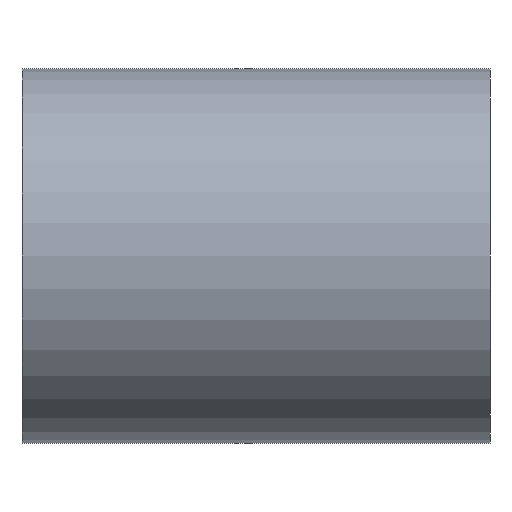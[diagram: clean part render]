
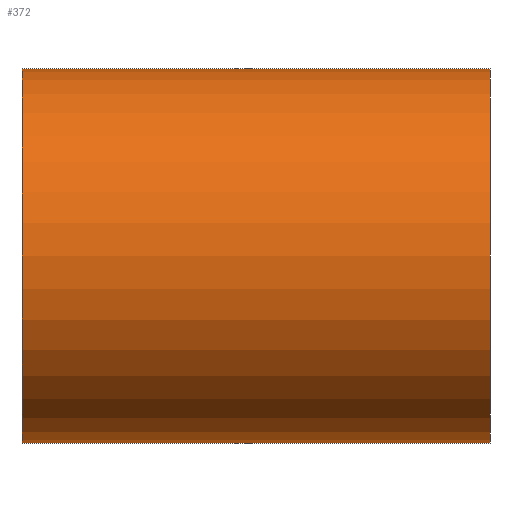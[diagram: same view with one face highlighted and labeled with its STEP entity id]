
A CAD part, front view. The second image highlights one B-rep face of the part: STEP entity #372.
In plain terms, the highlighted cylindrical face has radius 10 mm (diameter 20 mm), a partial arc.
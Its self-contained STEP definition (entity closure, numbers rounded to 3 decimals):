
#3 = DIRECTION ( 'NONE',  ( 0., 0., 1. ) ) ;
#37 = CARTESIAN_POINT ( 'NONE',  ( -12.5, 0., -10. ) ) ;
#51 = VERTEX_POINT ( 'NONE', #556 ) ;
#83 = CARTESIAN_POINT ( 'NONE',  ( 0., 0., 10. ) ) ;
#86 = CARTESIAN_POINT ( 'NONE',  ( -12.5, 0., 0. ) ) ;
#97 = AXIS2_PLACEMENT_3D ( 'NONE', #86, #778, #499 ) ;
#101 = DIRECTION ( 'NONE',  ( -1., 0., 0. ) ) ;
#106 = EDGE_CURVE ( 'NONE', #790, #460, #711, .T. ) ;
#170 = EDGE_CURVE ( 'NONE', #51, #790, #226, .T. ) ;
#226 = LINE ( 'NONE', #634, #644 ) ;
#230 = EDGE_LOOP ( 'NONE', ( #886, #666, #250, #482 ) ) ;
#250 = ORIENTED_EDGE ( 'NONE', *, *, #562, .T. ) ;
#273 = DIRECTION ( 'NONE',  ( -1., 0., 0. ) ) ;
#296 = CIRCLE ( 'NONE', #857, 10. ) ;
#300 = DIRECTION ( 'NONE',  ( -1., 0., 0. ) ) ;
#337 = FACE_OUTER_BOUND ( 'NONE', #230, .T. ) ;
#346 = VERTEX_POINT ( 'NONE', #554 ) ;
#372 = ADVANCED_FACE ( 'NONE', ( #337 ), #624, .T. ) ;
#442 = CARTESIAN_POINT ( 'NONE',  ( -12.5, 0., 10. ) ) ;
#446 = CARTESIAN_POINT ( 'NONE',  ( 12.5, 0., 0. ) ) ;
#460 = VERTEX_POINT ( 'NONE', #442 ) ;
#482 = ORIENTED_EDGE ( 'NONE', *, *, #106, .F. ) ;
#499 = DIRECTION ( 'NONE',  ( 0., 0., 1. ) ) ;
#554 = CARTESIAN_POINT ( 'NONE',  ( 12.5, 0., 10. ) ) ;
#556 = CARTESIAN_POINT ( 'NONE',  ( 12.5, 0., -10. ) ) ;
#562 = EDGE_CURVE ( 'NONE', #346, #460, #697, .T. ) ;
#593 = AXIS2_PLACEMENT_3D ( 'NONE', #616, #683, #3 ) ;
#616 = CARTESIAN_POINT ( 'NONE',  ( 0., 0., 0. ) ) ;
#624 = CYLINDRICAL_SURFACE ( 'NONE', #593, 10. ) ;
#634 = CARTESIAN_POINT ( 'NONE',  ( 0., 0., -10. ) ) ;
#644 = VECTOR ( 'NONE', #101, 1000. ) ;
#666 = ORIENTED_EDGE ( 'NONE', *, *, #693, .T. ) ;
#683 = DIRECTION ( 'NONE',  ( -1., 0., 0. ) ) ;
#693 = EDGE_CURVE ( 'NONE', #51, #346, #296, .T. ) ;
#697 = LINE ( 'NONE', #83, #716 ) ;
#711 = CIRCLE ( 'NONE', #97, 10. ) ;
#716 = VECTOR ( 'NONE', #273, 1000. ) ;
#717 = DIRECTION ( 'NONE',  ( 0., 0., 1. ) ) ;
#778 = DIRECTION ( 'NONE',  ( -1., 0., 0. ) ) ;
#790 = VERTEX_POINT ( 'NONE', #37 ) ;
#857 = AXIS2_PLACEMENT_3D ( 'NONE', #446, #300, #717 ) ;
#886 = ORIENTED_EDGE ( 'NONE', *, *, #170, .F. ) ;
